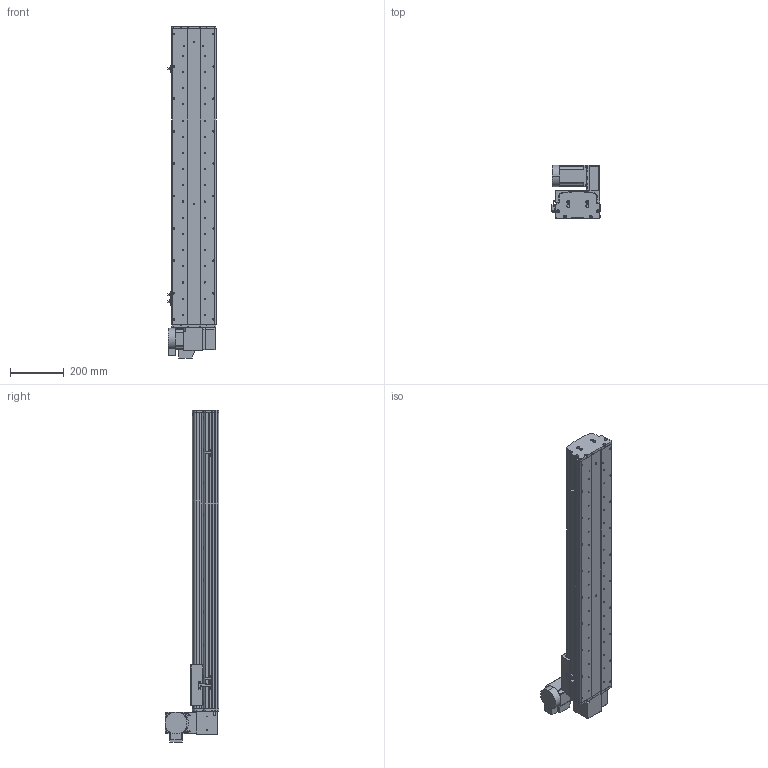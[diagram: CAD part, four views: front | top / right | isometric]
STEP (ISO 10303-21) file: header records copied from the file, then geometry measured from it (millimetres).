
FILE_DESCRIPTION (( 'STEP AP214' ), '1' );
FILE_NAME ('KSD165B-S850-MRU-CM .STEP', '2017-10-17T02:33:24', ( '微软用户' ), ( '微软中国' ), 'SwSTEP 2.0', 'SolidWorks 2014', '' );
FILE_SCHEMA (( 'AUTOMOTIVE_DESIGN' ));
Length unit declared in the file: millimetre
Products named in the file (17): KSD165模组-后端板1-同步带; KSD165模组-同步带滑动座-最新版; KSD165B-S850-MRU-CM ; 130宽模组马达安装板连板上下折丝杆同步带; 130宽模组保护罩上下左右折-同步带; HTPA26S5M250-A-H8 750W萇儂蚚; HTPA26S5M250-A-H8 400W萇儂蚚 ; KSD165模组-同步带防尘盖1-850行程-最新版; KSD165模组同步带底板-850行程-最新; 拸秶雄ん750W侜督萇儂; 165宽马达安装板同步带右; U倰嫖萇假蚾璃; U倰嫖萇EEㄜSX672; 覜茼え68遵圉猾敕; KSD165模组-同步带-防撞垫2; KSD165模组同步带-防撞垫1; KSD165耀郪-ヶ傷啣1-肮祭湍
Assembly tree (20 placements, depth 2):
  KSD165B-S850-MRU-CM 
    KSD165模组-同步带滑动座-最新版
    KSD165模组-后端板1-同步带
    KSD165耀郪-ヶ傷啣1-肮祭湍
    KSD165模组同步带-防撞垫1
    KSD165模组-同步带-防撞垫2
    覜茼え68遵圉猾敕
    U倰嫖萇EEㄜSX672  x3
    U倰嫖萇假蚾璃  x3
    165宽马达安装板同步带右
    拸秶雄ん750W侜督萇儂
    KSD165模组同步带底板-850行程-最新
    KSD165模组-同步带防尘盖1-850行程-最新版
    HTPA26S5M250-A-H8 400W萇儂蚚 
    HTPA26S5M250-A-H8 750W萇儂蚚
    130宽模组保护罩上下左右折-同步带
    130宽模组马达安装板连板上下折丝杆同步带
Bounding box: 178.7 x 198 x 1230.5 mm (x, y, z)
Volume: 7238175.6 mm3; surface area: 1681995 mm2
Topology: 21 solids, 21 shells, 1953 faces, 5514 edges, 3600 vertices
Faces by surface type: cylinder 1255, plane 586, cone 112
Entity records: 63340 total; most frequent: CARTESIAN_POINT 13000, DIRECTION 10414, ORIENTED_EDGE 9688, EDGE_CURVE 4844, AXIS2_PLACEMENT_3D 4084, VERTEX_POINT 3192, CIRCLE 2328, LINE 2246
